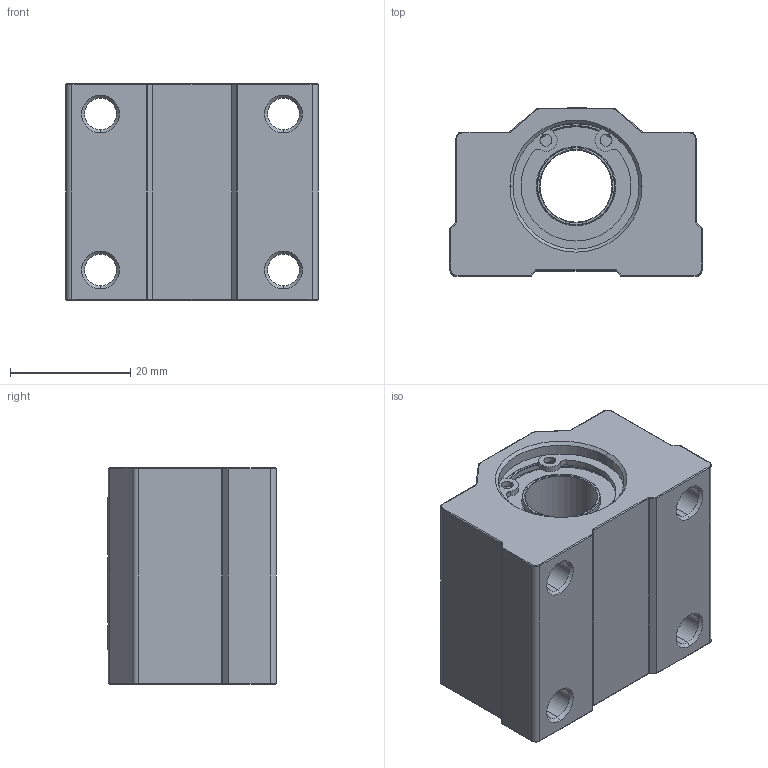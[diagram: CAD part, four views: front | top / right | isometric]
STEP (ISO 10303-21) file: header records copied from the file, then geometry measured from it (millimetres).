
FILE_DESCRIPTION (( 'STEP AP214' ), '1' );
FILE_NAME ('SC12UU.STEP', '2020-08-26T13:08:20', ( '' ), ( '' ), 'SwSTEP 2.0', 'SolidWorks 2018', '' );
FILE_SCHEMA (( 'AUTOMOTIVE_DESIGN' ));
Length unit declared in the file: millimetre
Products named in the file (4): SC12UU-03; SC12UU-02; SC12UU-01; SC12UU
Assembly tree (4 placements, depth 2):
  SC12UU
    SC12UU-01
    SC12UU-02
    SC12UU-03  x2
Bounding box: 42 x 28.1 x 36 mm (x, y, z)
Volume: 28721 mm3; surface area: 14897.7 mm2
Topology: 4 solids, 4 shells, 372 faces, 911 edges, 566 vertices
Faces by surface type: plane 150, cylinder 108, torus 48, bspline 38, cone 20, sphere 8
Entity records: 14254 total; most frequent: CARTESIAN_POINT 4084, ORIENTED_EDGE 1724, DIRECTION 1712, EDGE_CURVE 862, AXIS2_PLACEMENT_3D 602, VERTEX_POINT 536, LINE 508, VECTOR 508
